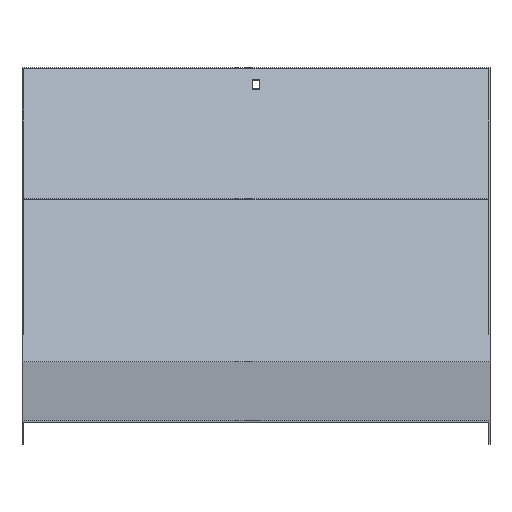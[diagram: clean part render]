
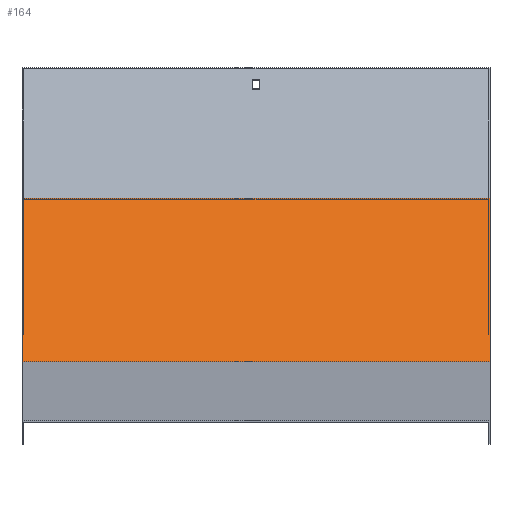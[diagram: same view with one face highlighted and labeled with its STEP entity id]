
A CAD part, top view. The second image highlights one B-rep face of the part: STEP entity #164.
In plain terms, the highlighted planar face has unit normal (0, 0.707, 0.707).
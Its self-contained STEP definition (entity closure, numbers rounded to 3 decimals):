
#8 = CARTESIAN_POINT ( 'NONE',  ( 201.5, 192.219, -462.933 ) ) ;
#22 = VERTEX_POINT ( 'NONE', #63 ) ;
#63 = CARTESIAN_POINT ( 'NONE',  ( -201.5, 192.219, -462.933 ) ) ;
#64 = CARTESIAN_POINT ( 'NONE',  ( 201.5, 51.505, -322.219 ) ) ;
#106 = CARTESIAN_POINT ( 'NONE',  ( 201.5, 192.219, -462.933 ) ) ;
#151 = CARTESIAN_POINT ( 'NONE',  ( 201.5, 51.505, -322.219 ) ) ;
#164 = ADVANCED_FACE ( 'NONE', ( #903 ), #526, .T. ) ;
#168 = AXIS2_PLACEMENT_3D ( 'NONE', #980, #614, #216 ) ;
#172 = DIRECTION ( 'NONE',  ( 0., 0.707, -0.707 ) ) ;
#193 = VECTOR ( 'NONE', #863, 1000. ) ;
#197 = VERTEX_POINT ( 'NONE', #151 ) ;
#216 = DIRECTION ( 'NONE',  ( 0., -0.707, 0.707 ) ) ;
#267 = EDGE_LOOP ( 'NONE', ( #568, #468, #495, #640 ) ) ;
#275 = VECTOR ( 'NONE', #172, 1000. ) ;
#278 = LINE ( 'NONE', #334, #193 ) ;
#314 = EDGE_CURVE ( 'NONE', #419, #22, #708, .T. ) ;
#326 = VECTOR ( 'NONE', #684, 1000. ) ;
#333 = CARTESIAN_POINT ( 'NONE',  ( -201.5, 51.505, -322.219 ) ) ;
#334 = CARTESIAN_POINT ( 'NONE',  ( 201.5, 51.505, -322.219 ) ) ;
#355 = LINE ( 'NONE', #106, #597 ) ;
#419 = VERTEX_POINT ( 'NONE', #433 ) ;
#433 = CARTESIAN_POINT ( 'NONE',  ( -201.5, 51.505, -322.219 ) ) ;
#462 = EDGE_CURVE ( 'NONE', #669, #22, #355, .T. ) ;
#468 = ORIENTED_EDGE ( 'NONE', *, *, #732, .F. ) ;
#495 = ORIENTED_EDGE ( 'NONE', *, *, #502, .T. ) ;
#502 = EDGE_CURVE ( 'NONE', #197, #669, #601, .T. ) ;
#526 = PLANE ( 'NONE',  #168 ) ;
#568 = ORIENTED_EDGE ( 'NONE', *, *, #314, .F. ) ;
#597 = VECTOR ( 'NONE', #806, 1000. ) ;
#601 = LINE ( 'NONE', #64, #326 ) ;
#614 = DIRECTION ( 'NONE',  ( 0., 0.707, 0.707 ) ) ;
#640 = ORIENTED_EDGE ( 'NONE', *, *, #462, .T. ) ;
#669 = VERTEX_POINT ( 'NONE', #8 ) ;
#684 = DIRECTION ( 'NONE',  ( 0., 0.707, -0.707 ) ) ;
#708 = LINE ( 'NONE', #333, #275 ) ;
#732 = EDGE_CURVE ( 'NONE', #197, #419, #278, .T. ) ;
#806 = DIRECTION ( 'NONE',  ( -1., 0., 0. ) ) ;
#863 = DIRECTION ( 'NONE',  ( -1., 0., 0. ) ) ;
#903 = FACE_OUTER_BOUND ( 'NONE', #267, .T. ) ;
#980 = CARTESIAN_POINT ( 'NONE',  ( 201.5, 51.505, -322.219 ) ) ;
